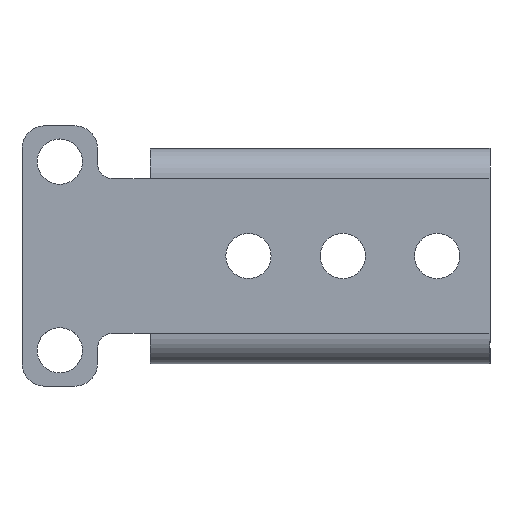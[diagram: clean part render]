
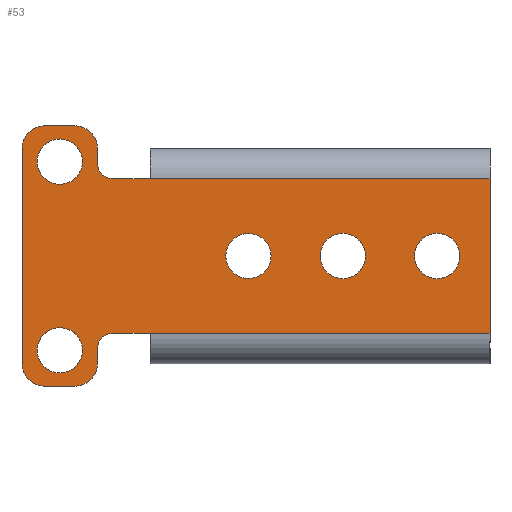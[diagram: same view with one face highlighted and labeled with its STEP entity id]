
A CAD part, top view. The second image highlights one B-rep face of the part: STEP entity #53.
In plain terms, the highlighted planar face has unit normal (0, 0, 1).
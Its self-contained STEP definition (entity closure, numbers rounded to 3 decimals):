
#53=ADVANCED_FACE('',(#102,#104,#106,#108,#110,#112),#114,.F.);
#102=FACE_BOUND('',#103,.T.);
#103=EDGE_LOOP('',(#511,#512,#513,#514,#515,#516,#517,#518,#519,#520,#521,#522,#523,
#524,#525,#526));
#104=FACE_BOUND('',#105,.T.);
#105=EDGE_LOOP('',(#527));
#106=FACE_BOUND('',#107,.T.);
#107=EDGE_LOOP('',(#528));
#108=FACE_BOUND('',#109,.T.);
#109=EDGE_LOOP('',(#529));
#110=FACE_BOUND('',#111,.T.);
#111=EDGE_LOOP('',(#530));
#112=FACE_BOUND('',#113,.T.);
#113=EDGE_LOOP('',(#531));
#114=PLANE('',#115);
#115=AXIS2_PLACEMENT_3D('',#116,#117,#118);
#116=CARTESIAN_POINT('',(0.,0.,0.));
#117=DIRECTION('',(0.,0.,-1.));
#118=DIRECTION('',(1.,0.,0.));
#511=ORIENTED_EDGE('',*,*,#739,.F.);
#512=ORIENTED_EDGE('',*,*,#740,.T.);
#513=ORIENTED_EDGE('',*,*,#741,.F.);
#514=ORIENTED_EDGE('',*,*,#742,.T.);
#515=ORIENTED_EDGE('',*,*,#743,.F.);
#516=ORIENTED_EDGE('',*,*,#744,.T.);
#517=ORIENTED_EDGE('',*,*,#745,.F.);
#518=ORIENTED_EDGE('',*,*,#746,.T.);
#519=ORIENTED_EDGE('',*,*,#747,.F.);
#520=ORIENTED_EDGE('',*,*,#748,.T.);
#521=ORIENTED_EDGE('',*,*,#749,.F.);
#522=ORIENTED_EDGE('',*,*,#750,.T.);
#523=ORIENTED_EDGE('',*,*,#751,.T.);
#524=ORIENTED_EDGE('',*,*,#752,.F.);
#525=ORIENTED_EDGE('',*,*,#753,.T.);
#526=ORIENTED_EDGE('',*,*,#754,.T.);
#527=ORIENTED_EDGE('',*,*,#755,.T.);
#528=ORIENTED_EDGE('',*,*,#756,.T.);
#529=ORIENTED_EDGE('',*,*,#757,.T.);
#530=ORIENTED_EDGE('',*,*,#758,.T.);
#531=ORIENTED_EDGE('',*,*,#759,.T.);
#739=EDGE_CURVE('',#853,#854,#855,.F.);
#740=EDGE_CURVE('',#853,#856,#857,.T.);
#741=EDGE_CURVE('',#858,#856,#859,.F.);
#742=EDGE_CURVE('',#858,#860,#861,.T.);
#743=EDGE_CURVE('',#862,#860,#863,.F.);
#744=EDGE_CURVE('',#862,#864,#865,.T.);
#745=EDGE_CURVE('',#866,#864,#867,.F.);
#746=EDGE_CURVE('',#866,#868,#869,.T.);
#747=EDGE_CURVE('',#870,#868,#871,.F.);
#748=EDGE_CURVE('',#870,#872,#873,.T.);
#749=EDGE_CURVE('',#874,#872,#875,.F.);
#750=EDGE_CURVE('',#874,#876,#877,.T.);
#751=EDGE_CURVE('',#876,#878,#879,.T.);
#752=EDGE_CURVE('',#880,#878,#881,.T.);
#753=EDGE_CURVE('',#880,#882,#883,.T.);
#754=EDGE_CURVE('',#882,#854,#884,.T.);
#755=EDGE_CURVE('',#885,#885,#886,.F.);
#756=EDGE_CURVE('',#887,#887,#888,.F.);
#757=EDGE_CURVE('',#889,#889,#890,.F.);
#758=EDGE_CURVE('',#891,#891,#892,.F.);
#759=EDGE_CURVE('',#893,#893,#894,.F.);
#853=VERTEX_POINT('',#1045);
#854=VERTEX_POINT('',#1046);
#855=CIRCLE('',#1047,2.);
#856=VERTEX_POINT('',#1051);
#857=LINE('',#1052,#1053);
#858=VERTEX_POINT('',#1055);
#859=CIRCLE('',#1056,3.);
#860=VERTEX_POINT('',#1060);
#861=LINE('',#1061,#1062);
#862=VERTEX_POINT('',#1064);
#863=CIRCLE('',#1065,3.);
#864=VERTEX_POINT('',#1069);
#865=LINE('',#1070,#1071);
#866=VERTEX_POINT('',#1073);
#867=CIRCLE('',#1074,3.);
#868=VERTEX_POINT('',#1078);
#869=LINE('',#1079,#1080);
#870=VERTEX_POINT('',#1082);
#871=CIRCLE('',#1083,3.);
#872=VERTEX_POINT('',#1087);
#873=LINE('',#1088,#1089);
#874=VERTEX_POINT('',#1091);
#875=CIRCLE('',#1092,2.);
#876=VERTEX_POINT('',#1096);
#877=LINE('',#1097,#1098);
#878=VERTEX_POINT('',#1100);
#879=LINE('',#1101,#1102);
#880=VERTEX_POINT('',#1104);
#881=LINE('',#1105,#1106);
#882=VERTEX_POINT('',#1108);
#883=LINE('',#1109,#1110);
#884=LINE('',#1112,#1113);
#885=VERTEX_POINT('',#1115);
#886=CIRCLE('',#1116,3.);
#887=VERTEX_POINT('',#1120);
#888=CIRCLE('',#1121,3.);
#889=VERTEX_POINT('',#1125);
#890=CIRCLE('',#1126,3.);
#891=VERTEX_POINT('',#1130);
#892=CIRCLE('',#1131,3.);
#893=VERTEX_POINT('',#1135);
#894=CIRCLE('',#1136,3.);
#1045=CARTESIAN_POINT('',(-7.,-2.,0.));
#1046=CARTESIAN_POINT('',(-5.,-4.,0.));
#1047=AXIS2_PLACEMENT_3D('',#1048,#1049,#1050);
#1048=CARTESIAN_POINT('',(-5.,-2.,0.));
#1049=DIRECTION('',(0.,0.,-1.));
#1050=DIRECTION('',(0.,-1.,0.));
#1051=CARTESIAN_POINT('',(-7.,0.,0.));
#1052=CARTESIAN_POINT('',(-7.,-2.,0.));
#1053=VECTOR('',#1054,1.);
#1054=DIRECTION('',(0.,1.,0.));
#1055=CARTESIAN_POINT('',(-10.,3.,0.));
#1056=AXIS2_PLACEMENT_3D('',#1057,#1058,#1059);
#1057=CARTESIAN_POINT('',(-10.,0.,0.));
#1058=DIRECTION('',(0.,0.,1.));
#1059=DIRECTION('',(1.,0.,0.));
#1060=CARTESIAN_POINT('',(-14.,3.,0.));
#1061=CARTESIAN_POINT('',(-10.,3.,0.));
#1062=VECTOR('',#1063,1.);
#1063=DIRECTION('',(-1.,0.,0.));
#1064=CARTESIAN_POINT('',(-17.,0.,0.));
#1065=AXIS2_PLACEMENT_3D('',#1066,#1067,#1068);
#1066=CARTESIAN_POINT('',(-14.,0.,0.));
#1067=DIRECTION('',(0.,0.,1.));
#1068=DIRECTION('',(0.,1.,0.));
#1069=CARTESIAN_POINT('',(-17.,-28.5,0.));
#1070=CARTESIAN_POINT('',(-17.,0.,0.));
#1071=VECTOR('',#1072,1.);
#1072=DIRECTION('',(0.,-1.,0.));
#1073=CARTESIAN_POINT('',(-14.,-31.5,0.));
#1074=AXIS2_PLACEMENT_3D('',#1075,#1076,#1077);
#1075=CARTESIAN_POINT('',(-14.,-28.5,0.));
#1076=DIRECTION('',(0.,0.,1.));
#1077=DIRECTION('',(-1.,0.,0.));
#1078=CARTESIAN_POINT('',(-10.,-31.5,0.));
#1079=CARTESIAN_POINT('',(-14.,-31.5,0.));
#1080=VECTOR('',#1081,1.);
#1081=DIRECTION('',(1.,0.,0.));
#1082=CARTESIAN_POINT('',(-7.,-28.5,0.));
#1083=AXIS2_PLACEMENT_3D('',#1084,#1085,#1086);
#1084=CARTESIAN_POINT('',(-10.,-28.5,0.));
#1085=DIRECTION('',(0.,0.,1.));
#1086=DIRECTION('',(0.,-1.,0.));
#1087=CARTESIAN_POINT('',(-7.,-26.5,0.));
#1088=CARTESIAN_POINT('',(-7.,-28.5,0.));
#1089=VECTOR('',#1090,1.);
#1090=DIRECTION('',(0.,1.,0.));
#1091=CARTESIAN_POINT('',(-5.,-24.5,0.));
#1092=AXIS2_PLACEMENT_3D('',#1093,#1094,#1095);
#1093=CARTESIAN_POINT('',(-5.,-26.5,0.));
#1094=DIRECTION('',(0.,0.,-1.));
#1095=DIRECTION('',(-1.,0.,0.));
#1096=CARTESIAN_POINT('',(0.,-24.5,0.));
#1097=CARTESIAN_POINT('',(-5.,-24.5,0.));
#1098=VECTOR('',#1099,1.);
#1099=DIRECTION('',(1.,0.,0.));
#1100=CARTESIAN_POINT('',(45.,-24.5,0.));
#1101=CARTESIAN_POINT('',(0.,-24.5,0.));
#1102=VECTOR('',#1103,1.);
#1103=DIRECTION('',(1.,0.,0.));
#1104=CARTESIAN_POINT('',(45.,-4.,0.));
#1105=CARTESIAN_POINT('',(45.,-4.,0.));
#1106=VECTOR('',#1107,1.);
#1107=DIRECTION('',(0.,-1.,0.));
#1108=CARTESIAN_POINT('',(0.,-4.,0.));
#1109=CARTESIAN_POINT('',(45.,-4.,0.));
#1110=VECTOR('',#1111,1.);
#1111=DIRECTION('',(-1.,0.,0.));
#1112=CARTESIAN_POINT('',(0.,-4.,0.));
#1113=VECTOR('',#1114,1.);
#1114=DIRECTION('',(-1.,0.,0.));
#1115=CARTESIAN_POINT('',(22.5,-14.25,0.));
#1116=AXIS2_PLACEMENT_3D('',#1117,#1118,#1119);
#1117=CARTESIAN_POINT('',(25.5,-14.25,0.));
#1118=DIRECTION('',(0.,0.,1.));
#1119=DIRECTION('',(-1.,0.,0.));
#1120=CARTESIAN_POINT('',(10.,-14.25,0.));
#1121=AXIS2_PLACEMENT_3D('',#1122,#1123,#1124);
#1122=CARTESIAN_POINT('',(13.,-14.25,0.));
#1123=DIRECTION('',(0.,0.,1.));
#1124=DIRECTION('',(-1.,0.,0.));
#1125=CARTESIAN_POINT('',(35.,-14.25,0.));
#1126=AXIS2_PLACEMENT_3D('',#1127,#1128,#1129);
#1127=CARTESIAN_POINT('',(38.,-14.25,0.));
#1128=DIRECTION('',(0.,0.,1.));
#1129=DIRECTION('',(-1.,0.,0.));
#1130=CARTESIAN_POINT('',(-15.,-26.75,0.));
#1131=AXIS2_PLACEMENT_3D('',#1132,#1133,#1134);
#1132=CARTESIAN_POINT('',(-12.,-26.75,0.));
#1133=DIRECTION('',(0.,0.,1.));
#1134=DIRECTION('',(-1.,0.,0.));
#1135=CARTESIAN_POINT('',(-15.,-1.75,0.));
#1136=AXIS2_PLACEMENT_3D('',#1137,#1138,#1139);
#1137=CARTESIAN_POINT('',(-12.,-1.75,0.));
#1138=DIRECTION('',(0.,0.,1.));
#1139=DIRECTION('',(-1.,0.,0.));
